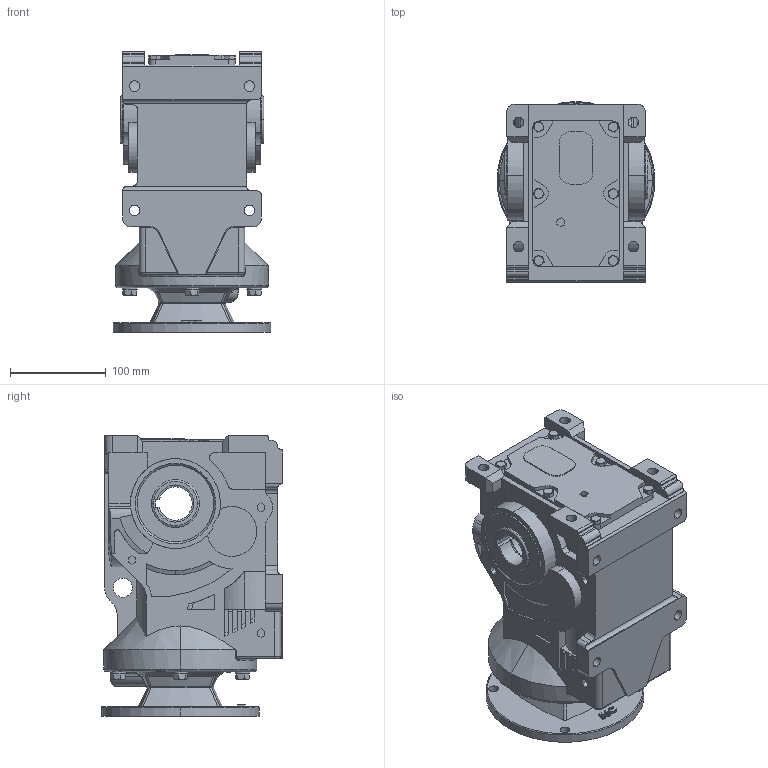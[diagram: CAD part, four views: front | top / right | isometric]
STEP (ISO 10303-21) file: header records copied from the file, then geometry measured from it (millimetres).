
FILE_DESCRIPTION (( 'STEP AP203' ), '1' );
FILE_NAME ('KHN47-56C.STEP', '2022-04-07T07:00:48', ( 'user1' ), ( '' ), 'SwSTEP 2.0', 'SolidWorks 2012', '' );
FILE_SCHEMA (( 'CONFIG_CONTROL_DESIGN' ));
Length unit declared in the file: millimetre
Products named in the file (1): KHN47-56C
Bounding box: 165.1 x 189.35 x 293.5 mm (x, y, z)
Volume: 5063898.3 mm3; surface area: 317961.2 mm2
Topology: 1 solids, 1 shells, 944 faces, 2503 edges, 1623 vertices
Faces by surface type: plane 472, cylinder 270, bspline 111, cone 71, torus 20
Entity records: 35739 total; most frequent: CARTESIAN_POINT 12893, ORIENTED_EDGE 5002, DIRECTION 4351, EDGE_CURVE 2501, VERTEX_POINT 1623, AXIS2_PLACEMENT_3D 1464, VECTOR 1423, LINE 1423
